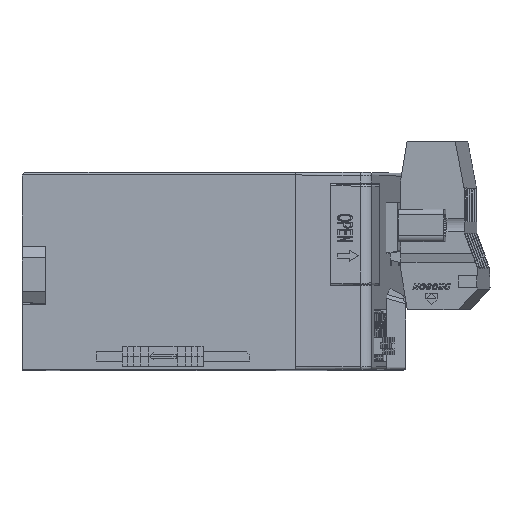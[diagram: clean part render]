
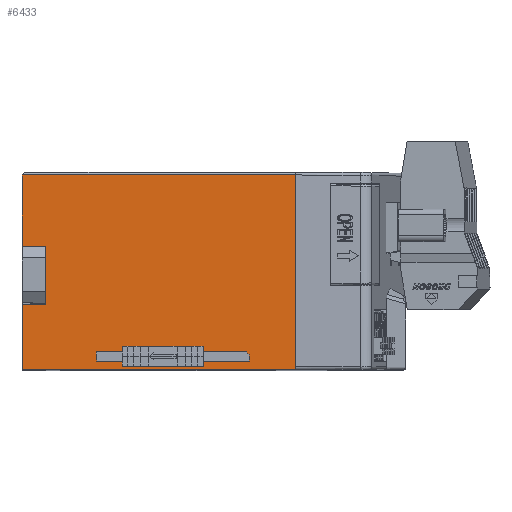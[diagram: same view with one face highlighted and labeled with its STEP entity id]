
A CAD part, top view. The second image highlights one B-rep face of the part: STEP entity #6433.
In plain terms, the highlighted planar face has unit normal (0, 0, 1).
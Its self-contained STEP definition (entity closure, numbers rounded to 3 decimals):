
#2610=FACE_BOUND('',#16015,.T.);
#2611=FACE_BOUND('',#16016,.T.);
#6433=ADVANCED_FACE('',(#2610,#2611),#8888,.T.);
#8888=PLANE('',#71207);
#16015=EDGE_LOOP('',(#35586,#35587,#35588,#35589,#35590,#35591,#35592,#35593,
#35594));
#16016=EDGE_LOOP('',(#35595,#35596,#35597,#35598,#35599,#35600,#35601));
#35586=ORIENTED_EDGE('',*,*,#52262,.T.);
#35587=ORIENTED_EDGE('',*,*,#52263,.T.);
#35588=ORIENTED_EDGE('',*,*,#52264,.F.);
#35589=ORIENTED_EDGE('',*,*,#52265,.T.);
#35590=ORIENTED_EDGE('',*,*,#52266,.T.);
#35591=ORIENTED_EDGE('',*,*,#52267,.F.);
#35592=ORIENTED_EDGE('',*,*,#52268,.T.);
#35593=ORIENTED_EDGE('',*,*,#52269,.T.);
#35594=ORIENTED_EDGE('',*,*,#52270,.F.);
#35595=ORIENTED_EDGE('',*,*,#52271,.T.);
#35596=ORIENTED_EDGE('',*,*,#52272,.F.);
#35597=ORIENTED_EDGE('',*,*,#52273,.F.);
#35598=ORIENTED_EDGE('',*,*,#52274,.T.);
#35599=ORIENTED_EDGE('',*,*,#52275,.T.);
#35600=ORIENTED_EDGE('',*,*,#52276,.T.);
#35601=ORIENTED_EDGE('',*,*,#52277,.T.);
#42891=VERTEX_POINT('',#130020);
#42892=VERTEX_POINT('',#130021);
#42893=VERTEX_POINT('',#130023);
#42894=VERTEX_POINT('',#130025);
#42895=VERTEX_POINT('',#130027);
#42896=VERTEX_POINT('',#130029);
#42897=VERTEX_POINT('',#130031);
#42898=VERTEX_POINT('',#130033);
#42899=VERTEX_POINT('',#130035);
#42900=VERTEX_POINT('',#130038);
#42901=VERTEX_POINT('',#130039);
#42902=VERTEX_POINT('',#130041);
#42903=VERTEX_POINT('',#130043);
#42904=VERTEX_POINT('',#130045);
#42905=VERTEX_POINT('',#130047);
#42906=VERTEX_POINT('',#130049);
#52262=EDGE_CURVE('',#42891,#42892,#59037,.T.);
#52263=EDGE_CURVE('',#42892,#42893,#59038,.T.);
#52264=EDGE_CURVE('',#42894,#42893,#59039,.T.);
#52265=EDGE_CURVE('',#42894,#42895,#59040,.T.);
#52266=EDGE_CURVE('',#42895,#42896,#59041,.T.);
#52267=EDGE_CURVE('',#42897,#42896,#59042,.T.);
#52268=EDGE_CURVE('',#42897,#42898,#59043,.T.);
#52269=EDGE_CURVE('',#42898,#42899,#59044,.T.);
#52270=EDGE_CURVE('',#42891,#42899,#59045,.T.);
#52271=EDGE_CURVE('',#42900,#42901,#59046,.T.);
#52272=EDGE_CURVE('',#42902,#42901,#59047,.T.);
#52273=EDGE_CURVE('',#42903,#42902,#59048,.T.);
#52274=EDGE_CURVE('',#42903,#42904,#59049,.T.);
#52275=EDGE_CURVE('',#42904,#42905,#59050,.T.);
#52276=EDGE_CURVE('',#42905,#42906,#59051,.T.);
#52277=EDGE_CURVE('',#42906,#42900,#59052,.T.);
#59037=LINE('',#130019,#66022);
#59038=LINE('',#130022,#66023);
#59039=LINE('',#130024,#66024);
#59040=LINE('',#130026,#66025);
#59041=LINE('',#130028,#66026);
#59042=LINE('',#130030,#66027);
#59043=LINE('',#130032,#66028);
#59044=LINE('',#130034,#66029);
#59045=LINE('',#130036,#66030);
#59046=LINE('',#130037,#66031);
#59047=LINE('',#130040,#66032);
#59048=LINE('',#130042,#66033);
#59049=LINE('',#130044,#66034);
#59050=LINE('',#130046,#66035);
#59051=LINE('',#130048,#66036);
#59052=LINE('',#130050,#66037);
#66022=VECTOR('',#86685,1.);
#66023=VECTOR('',#86686,1.);
#66024=VECTOR('',#86687,1.);
#66025=VECTOR('',#86688,1.);
#66026=VECTOR('',#86689,1.);
#66027=VECTOR('',#86690,1.);
#66028=VECTOR('',#86691,1.);
#66029=VECTOR('',#86692,1.);
#66030=VECTOR('',#86693,1.);
#66031=VECTOR('',#86694,1.);
#66032=VECTOR('',#86695,1.);
#66033=VECTOR('',#86696,1.);
#66034=VECTOR('',#86697,1.);
#66035=VECTOR('',#86698,1.);
#66036=VECTOR('',#86699,1.);
#66037=VECTOR('',#86700,1.);
#71207=AXIS2_PLACEMENT_3D('',#130051,#86701,#86702);
#86685=DIRECTION('',(0.,1.,0.));
#86686=DIRECTION('',(-1.,0.,0.));
#86687=DIRECTION('',(0.017,1.,0.));
#86688=DIRECTION('',(0.,-1.,0.));
#86689=DIRECTION('',(1.,0.,0.));
#86690=DIRECTION('',(0.,1.,0.));
#86691=DIRECTION('',(-1.,0.,0.));
#86692=DIRECTION('',(0.,-1.,0.));
#86693=DIRECTION('',(-1.,0.,0.));
#86694=DIRECTION('',(-1.,0.,0.));
#86695=DIRECTION('',(0.017,-1.,0.));
#86696=DIRECTION('',(-0.017,-1.,0.));
#86697=DIRECTION('',(1.,0.,0.));
#86698=DIRECTION('',(0.707,-0.707,0.));
#86699=DIRECTION('',(0.017,-1.,0.));
#86700=DIRECTION('',(-0.017,-1.,0.));
#86701=DIRECTION('',(0.,0.,1.));
#86702=DIRECTION('',(-1.,0.,0.));
#130019=CARTESIAN_POINT('',(-247.544,79.761,278.694));
#130020=CARTESIAN_POINT('',(-247.544,79.761,278.694));
#130021=CARTESIAN_POINT('',(-247.544,113.261,278.694));
#130022=CARTESIAN_POINT('',(-294.544,113.261,278.694));
#130023=CARTESIAN_POINT('',(-294.526,113.261,278.694));
#130024=CARTESIAN_POINT('',(-295.161,76.866,278.694));
#130025=CARTESIAN_POINT('',(-294.544,112.261,278.694));
#130026=CARTESIAN_POINT('',(-294.544,112.261,278.694));
#130027=CARTESIAN_POINT('',(-294.544,101.011,278.694));
#130028=CARTESIAN_POINT('',(-294.544,101.011,278.694));
#130029=CARTESIAN_POINT('',(-290.544,101.011,278.694));
#130030=CARTESIAN_POINT('',(-290.544,76.375,278.694));
#130031=CARTESIAN_POINT('',(-290.544,91.011,278.694));
#130032=CARTESIAN_POINT('',(-290.544,91.011,278.694));
#130033=CARTESIAN_POINT('',(-294.544,91.011,278.694));
#130034=CARTESIAN_POINT('',(-294.544,91.011,278.694));
#130035=CARTESIAN_POINT('',(-294.544,79.761,278.694));
#130036=CARTESIAN_POINT('',(-247.544,79.761,278.694));
#130037=CARTESIAN_POINT('',(-247.544,81.261,278.694));
#130038=CARTESIAN_POINT('',(-255.458,81.261,278.694));
#130039=CARTESIAN_POINT('',(-281.73,81.261,278.694));
#130040=CARTESIAN_POINT('',(-281.744,82.061,278.694));
#130041=CARTESIAN_POINT('',(-281.744,82.061,278.694));
#130042=CARTESIAN_POINT('',(-281.744,82.061,278.694));
#130043=CARTESIAN_POINT('',(-281.73,82.861,278.694));
#130044=CARTESIAN_POINT('',(-247.544,82.861,278.694));
#130045=CARTESIAN_POINT('',(-255.924,82.861,278.694));
#130046=CARTESIAN_POINT('',(-266.434,93.37,278.694));
#130047=CARTESIAN_POINT('',(-255.449,82.386,278.694));
#130048=CARTESIAN_POINT('',(-255.968,112.114,278.694));
#130049=CARTESIAN_POINT('',(-255.444,82.061,278.694));
#130050=CARTESIAN_POINT('',(-254.914,112.39,278.694));
#130051=CARTESIAN_POINT('',(-267.044,76.375,278.694));
